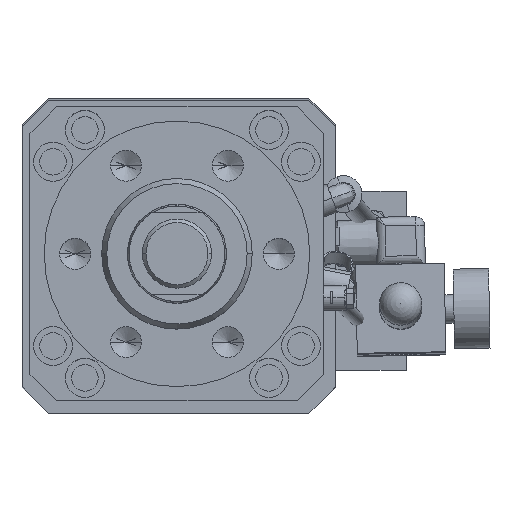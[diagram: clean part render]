
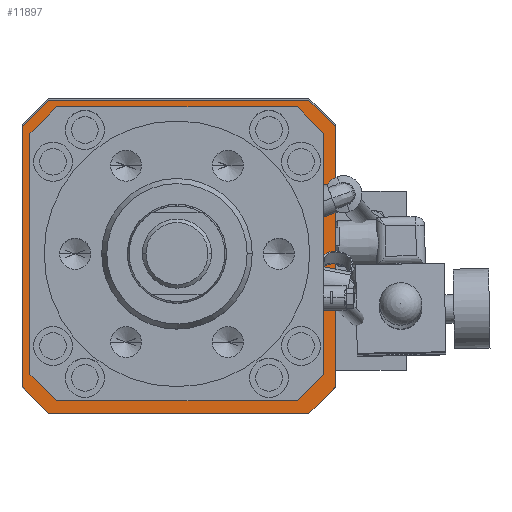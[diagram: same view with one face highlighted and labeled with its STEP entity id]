
A CAD part, top view. The second image highlights one B-rep face of the part: STEP entity #11897.
In plain terms, the highlighted planar face has unit normal (0, 0, 1).
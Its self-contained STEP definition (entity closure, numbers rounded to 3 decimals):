
#1912 = CARTESIAN_POINT ( 'NONE',  ( 142.476, 1116.631, 617.23 ) ) ;
#2178 = VECTOR ( 'NONE', #32283, 1000. ) ;
#2615 = ORIENTED_EDGE ( 'NONE', *, *, #13065, .T. ) ;
#3084 = DIRECTION ( 'NONE',  ( 0., -1., 0. ) ) ;
#3192 = VECTOR ( 'NONE', #6674, 1000. ) ;
#3492 = EDGE_CURVE ( 'NONE', #21593, #13238, #13828, .T. ) ;
#3682 = VECTOR ( 'NONE', #19282, 1000. ) ;
#4609 = VERTEX_POINT ( 'NONE', #33427 ) ;
#5034 = CARTESIAN_POINT ( 'NONE',  ( 127.476, 1131.631, 617.23 ) ) ;
#5229 = CARTESIAN_POINT ( 'NONE',  ( 289.476, 1293.631, 617.23 ) ) ;
#6151 = EDGE_CURVE ( 'NONE', #4609, #13238, #16407, .T. ) ;
#6506 = CARTESIAN_POINT ( 'NONE',  ( 127.476, 1116.631, 617.23 ) ) ;
#6674 = DIRECTION ( 'NONE',  ( 0., 1., 0. ) ) ;
#7098 = EDGE_LOOP ( 'NONE', ( #13291, #22863, #27050, #2615, #11572, #33294, #32616, #22200 ) ) ;
#7126 = CARTESIAN_POINT ( 'NONE',  ( 182.477, 1696.913, 617.23 ) ) ;
#7492 = DIRECTION ( 'NONE',  ( 0., 0., -1. ) ) ;
#7531 = CARTESIAN_POINT ( 'NONE',  ( 304.476, 1278.631, 617.23 ) ) ;
#7705 = DIRECTION ( 'NONE',  ( 1., 0., 0. ) ) ;
#7749 = VERTEX_POINT ( 'NONE', #24908 ) ;
#8600 = VERTEX_POINT ( 'NONE', #29839 ) ;
#8873 = LINE ( 'NONE', #24941, #12108 ) ;
#9028 = LINE ( 'NONE', #6506, #3192 ) ;
#9143 = EDGE_CURVE ( 'NONE', #8600, #14930, #32331, .T. ) ;
#11000 = LINE ( 'NONE', #13717, #3682 ) ;
#11572 = ORIENTED_EDGE ( 'NONE', *, *, #19670, .F. ) ;
#11897 = ADVANCED_FACE ( 'NONE', ( #12533 ), #12332, .F. ) ;
#12108 = VECTOR ( 'NONE', #27632, 1000. ) ;
#12332 = PLANE ( 'NONE',  #18281 ) ;
#12533 = FACE_OUTER_BOUND ( 'NONE', #7098, .T. ) ;
#13065 = EDGE_CURVE ( 'NONE', #8600, #7749, #11000, .T. ) ;
#13238 = VERTEX_POINT ( 'NONE', #14417 ) ;
#13291 = ORIENTED_EDGE ( 'NONE', *, *, #3492, .F. ) ;
#13717 = CARTESIAN_POINT ( 'NONE',  ( 142.476, 1293.631, 617.23 ) ) ;
#13729 = CARTESIAN_POINT ( 'NONE',  ( 289.476, 1116.631, 617.23 ) ) ;
#13828 = LINE ( 'NONE', #16703, #34174 ) ;
#14417 = CARTESIAN_POINT ( 'NONE',  ( 304.476, 1131.631, 617.23 ) ) ;
#14427 = DIRECTION ( 'NONE',  ( 0.707, 0.707, 0. ) ) ;
#14930 = VERTEX_POINT ( 'NONE', #5229 ) ;
#15188 = LINE ( 'NONE', #15704, #18519 ) ;
#15553 = DIRECTION ( 'NONE',  ( -0.707, 0.707, 0. ) ) ;
#15704 = CARTESIAN_POINT ( 'NONE',  ( 304.476, 1278.631, 617.23 ) ) ;
#16322 = CARTESIAN_POINT ( 'NONE',  ( 127.476, 1293.631, 617.23 ) ) ;
#16407 = LINE ( 'NONE', #13729, #29263 ) ;
#16703 = CARTESIAN_POINT ( 'NONE',  ( 304.476, 1116.631, 617.23 ) ) ;
#16888 = EDGE_CURVE ( 'NONE', #29375, #34211, #18835, .T. ) ;
#18281 = AXIS2_PLACEMENT_3D ( 'NONE', #7126, #7492, #23412 ) ;
#18519 = VECTOR ( 'NONE', #15553, 1000. ) ;
#18835 = LINE ( 'NONE', #5034, #2178 ) ;
#19282 = DIRECTION ( 'NONE',  ( -0.707, -0.707, 0. ) ) ;
#19670 = EDGE_CURVE ( 'NONE', #29375, #7749, #9028, .T. ) ;
#21593 = VERTEX_POINT ( 'NONE', #7531 ) ;
#22200 = ORIENTED_EDGE ( 'NONE', *, *, #6151, .T. ) ;
#22863 = ORIENTED_EDGE ( 'NONE', *, *, #31212, .T. ) ;
#23412 = DIRECTION ( 'NONE',  ( 1., 0., 0. ) ) ;
#24908 = CARTESIAN_POINT ( 'NONE',  ( 127.476, 1278.631, 617.23 ) ) ;
#24941 = CARTESIAN_POINT ( 'NONE',  ( 127.476, 1116.631, 617.23 ) ) ;
#27050 = ORIENTED_EDGE ( 'NONE', *, *, #9143, .F. ) ;
#27632 = DIRECTION ( 'NONE',  ( -1., 0., 0. ) ) ;
#29263 = VECTOR ( 'NONE', #14427, 1000. ) ;
#29375 = VERTEX_POINT ( 'NONE', #35501 ) ;
#29702 = EDGE_CURVE ( 'NONE', #4609, #34211, #8873, .T. ) ;
#29839 = CARTESIAN_POINT ( 'NONE',  ( 142.476, 1293.631, 617.23 ) ) ;
#31212 = EDGE_CURVE ( 'NONE', #21593, #14930, #15188, .T. ) ;
#32283 = DIRECTION ( 'NONE',  ( 0.707, -0.707, 0. ) ) ;
#32331 = LINE ( 'NONE', #16322, #33667 ) ;
#32616 = ORIENTED_EDGE ( 'NONE', *, *, #29702, .F. ) ;
#33294 = ORIENTED_EDGE ( 'NONE', *, *, #16888, .T. ) ;
#33427 = CARTESIAN_POINT ( 'NONE',  ( 289.476, 1116.631, 617.23 ) ) ;
#33667 = VECTOR ( 'NONE', #7705, 1000. ) ;
#34174 = VECTOR ( 'NONE', #3084, 1000. ) ;
#34211 = VERTEX_POINT ( 'NONE', #1912 ) ;
#35501 = CARTESIAN_POINT ( 'NONE',  ( 127.476, 1131.631, 617.23 ) ) ;
